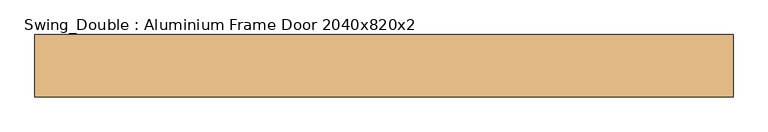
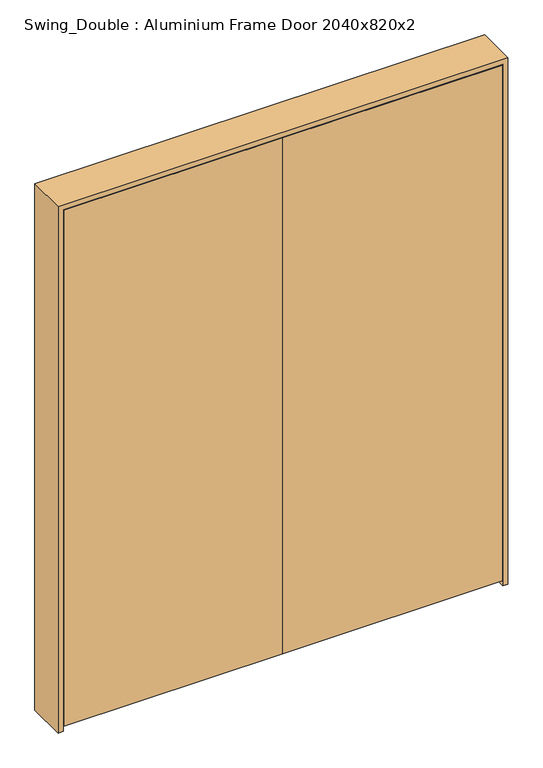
"""IFC4 building model written with IfcOpenShell, lengths in millimetres: door geometry, Swing_Double : Aluminium Frame Door 2040x820x2."""

from ifc_helpers import new_model, si_unit, frame, origin, place, context, project, spatial, polyline, outline, extrude, faceted_brep, source, transform, mapped, element, save


def swing_double_aluminium_frame_door_2040x820x2_474ccbf3(model_context):
    return source(origin(), model_context, "Body", "SolidModel", [
        extrude(outline(polyline([(-211.5, -75.0), (-211.5, -35.0), (608.5, -35.0), (608.5, -75.0), (-211.5, -75.0)])), frame((0.0, 0.0, 20.0), z_axis=(0.0, 0.0, 1.0), x_axis=(1.0, 0.0, 0.0)), (0.0, 0.0, 1.0), 2040.0),
        extrude(outline(polyline([(-211.5, -75.0), (-1031.5, -75.0), (-1031.5, -35.0), (-211.5, -35.0), (-211.5, -75.0)])), frame((0.0, 0.0, 20.0), z_axis=(0.0, 0.0, 1.0), x_axis=(1.0, 0.0, 0.0)), (0.0, 0.0, 1.0), 2040.0),
        faceted_brep([(629.5, 75.0, 0.0), (629.5, -75.0, 0.0), (610.5, -75.0, 0.0), (610.5, -33.0, 0.0), (590.5, -33.0, 0.0), (590.5, 75.0, 0.0), (590.5, 75.0, 2042.0), (-1013.5, 75.0, 2042.0), (-1013.5, 75.0, 0.0), (-1052.5, 75.0, 0.0), (-1052.5, 75.0, 2081.0), (629.5, 75.0, 2081.0), (590.5, -33.0, 2042.0), (610.5, -33.0, 2062.0), (-1033.5, -33.0, 2062.0), (-1033.5, -33.0, 0.0), (-1013.5, -33.0, 0.0), (-1013.5, -33.0, 2042.0), (610.5, -75.0, 2062.0), (629.5, -75.0, 2081.0), (-1052.5, -75.0, 2081.0), (-1052.5, -75.0, 0.0), (-1033.5, -75.0, 0.0), (-1033.5, -75.0, 2062.0)], [[[0, 1, 2, 3, 4, 5]], [[5, 6, 7, 8, 9, 10, 11, 0]], [[4, 12, 6, 5]], [[3, 13, 14, 15, 16, 17, 12, 4]], [[2, 18, 13, 3]], [[1, 19, 20, 21, 22, 23, 18, 2]], [[0, 11, 19, 1]], [[23, 22, 15, 14]], [[9, 8, 16, 15, 22, 21]], [[10, 9, 21, 20]], [[17, 16, 8, 7]], [[11, 10, 20, 19]], [[18, 23, 14, 13]], [[12, 17, 7, 6]]]),
    ])


if __name__ == "__main__":
    model = new_model("IFC4")
    model_context = context("Model", 3, world=origin())
    ifc_project = project(units=[si_unit("LENGTHUNIT", "METRE", prefix="MILLI")], contexts=[model_context])
    site = spatial("IfcSite", under=ifc_project)
    building = spatial("IfcBuilding", under=site)
    placement = place(None, origin())
    swing_double_aluminium_frame_door_2040x820x2_shape = swing_double_aluminium_frame_door_2040x820x2_474ccbf3(model_context)
    element("IfcDoor", 1, ObjectType="Swing_Double : Aluminium Frame Door 2040x820x2", at=placement, inside=building, context=model_context, shape_type="MappedRepresentation", body=[
        mapped(swing_double_aluminium_frame_door_2040x820x2_shape, transform((0.0, 0.0, 0.0), x_axis=(1.0, 0.0, 0.0), y_axis=(0.0, 1.0, 0.0), z_axis=(0.0, 0.0, 1.0))),
    ])
    save(model, "model.ifc")
